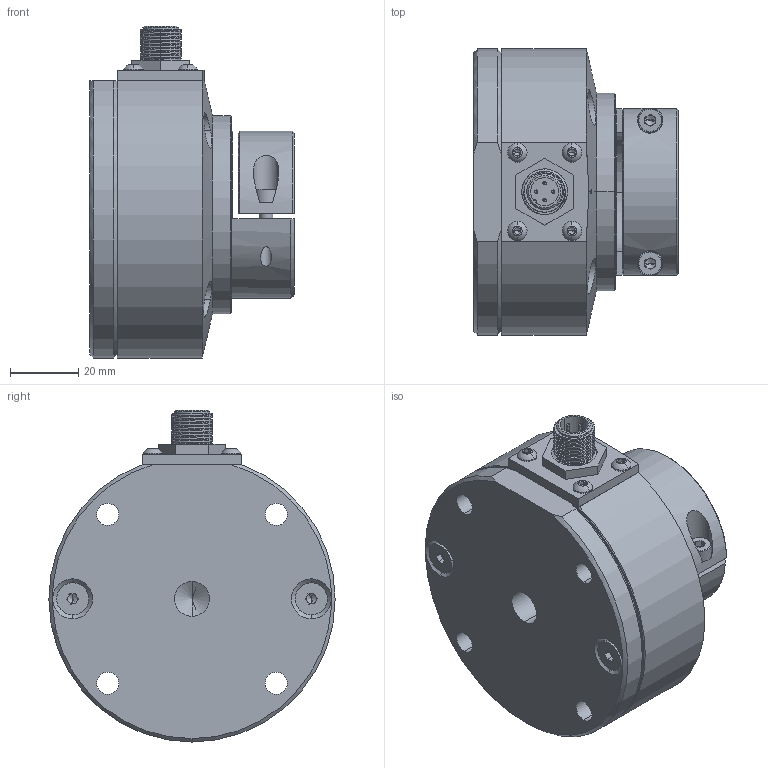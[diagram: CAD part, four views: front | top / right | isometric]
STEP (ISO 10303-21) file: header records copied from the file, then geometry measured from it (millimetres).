
FILE_DESCRIPTION (( 'STEP AP214' ), '1' );
FILE_NAME ('WT-2 50 KG.STEP', '2026-03-27T06:46:15', ( '' ), ( '' ), 'SwSTEP 2.0', 'SolidWorks 2020', '' );
FILE_SCHEMA (( 'AUTOMOTIVE_DESIGN' ));
Length unit declared in the file: millimetre
Products named in the file (9): socket head cap screw_iso_ISO 4762 M4 x 8 - 8N; Konnektör flanþý; M12 konnektör 4 Pinli; WT5 KELEPÇE; socket countersunk head screw_iso_ISO 10642 - M5 x 16 - 16N; WT-2 50 KG; socket button head screw_iso_ISO 7380 - M3 x 6 - 6N; WT-2 50 Kg_Motnaj; WT2 Flanþ
Assembly tree (13 placements, depth 2):
  WT-2 50 KG
    WT-2 50 Kg_Motnaj
    WT2 Flanþ
    WT5 KELEPÇE
    Konnektör flanþý
    M12 konnektör 4 Pinli
    socket head cap screw_iso_ISO 4762 M4 x 8 - 8N  x2
    socket countersunk head screw_iso_ISO 10642 - M5 x 16 - 16N  x2
    socket button head screw_iso_ISO 7380 - M3 x 6 - 6N  x4
Bounding box: 60 x 84 x 97.4 mm (x, y, z)
Volume: 173084.6 mm3; surface area: 56346.3 mm2
Topology: 13 solids, 13 shells, 459 faces, 1103 edges, 670 vertices
Faces by surface type: plane 177, cylinder 166, cone 77, torus 20, sphere 16, bspline 3
Entity records: 12928 total; most frequent: CARTESIAN_POINT 4592, DIRECTION 1664, ORIENTED_EDGE 1538, EDGE_CURVE 769, AXIS2_PLACEMENT_3D 657, VERTEX_POINT 493, EDGE_LOOP 398, LINE 350
